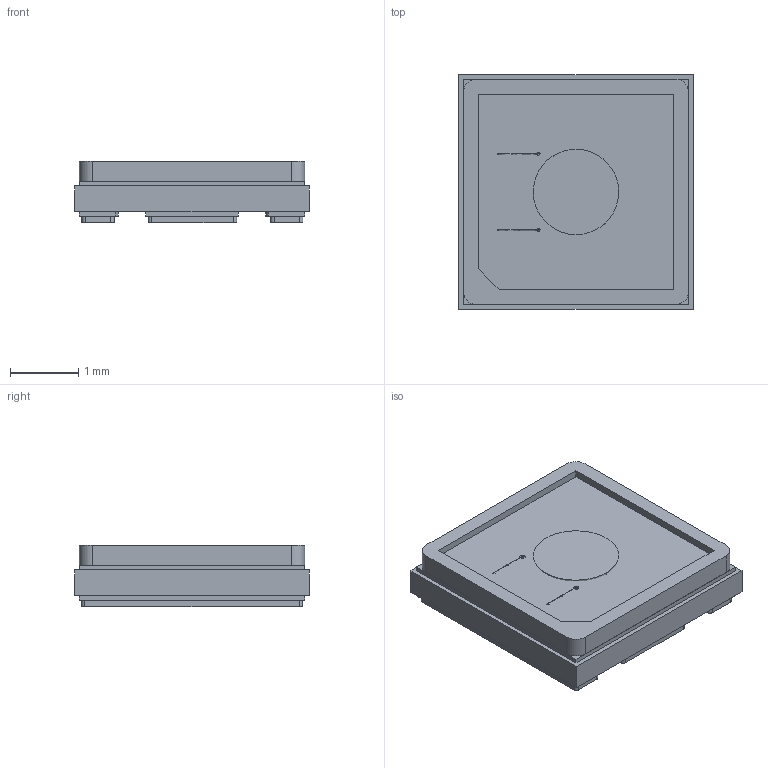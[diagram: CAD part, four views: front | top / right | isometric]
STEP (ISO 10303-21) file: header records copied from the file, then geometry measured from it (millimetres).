
FILE_DESCRIPTION(/* description */ (''),/* implementation_level */ '2;1');
FILE_NAME(/* name */ 'SFT-12R-W OA',/* time_stamp */ '2023-09-20T16:03:10+08:00',/* author */ (''),/* organization */ (''),/* preprocessor_version */ 'ST-DEVELOPER v15',/* originating_system */ '',/* authorisation */ '');
FILE_SCHEMA (('AUTOMOTIVE_DESIGN'));
Length unit declared in the file: millimetre
Products named in the file (1): Document
Bounding box: 3.45 x 3.45 x 0.91 mm (x, y, z)
Volume: 8.9 mm3; surface area: 122.9 mm2
Topology: 19 solids, 19 shells, 241 faces, 574 edges, 364 vertices
Faces by surface type: plane 134, bspline 107
Entity records: 10230 total; most frequent: CARTESIAN_POINT 6413, ORIENTED_EDGE 1124, EDGE_CURVE 562, B_SPLINE_CURVE_WITH_KNOTS 384, VERTEX_POINT 363, EDGE_LOOP 251, ADVANCED_FACE 241, FACE_OUTER_BOUND 241
